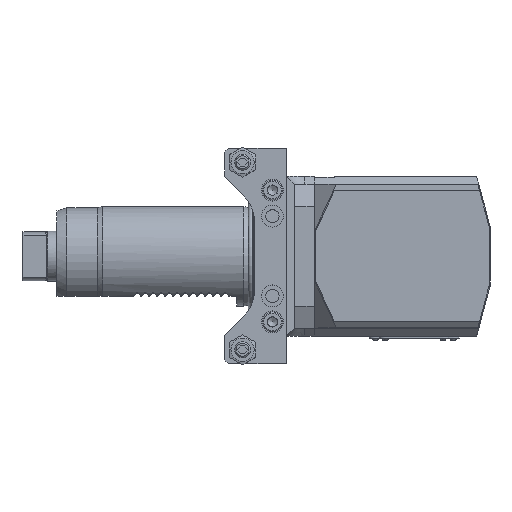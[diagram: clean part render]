
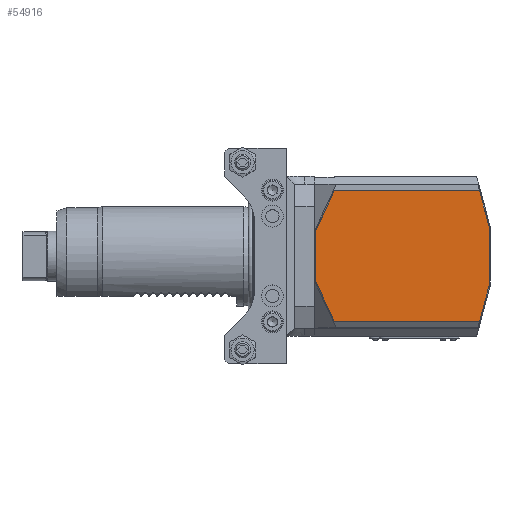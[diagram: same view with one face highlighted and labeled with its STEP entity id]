
A CAD part, top view. The second image highlights one B-rep face of the part: STEP entity #54916.
In plain terms, the highlighted planar face has unit normal (0, 0, 1) as drawn and (-1, 0, 0) by its records, which use the part's own axes.
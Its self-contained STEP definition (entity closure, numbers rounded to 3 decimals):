
#22824=VECTOR('',#39362,1.);
#22835=VECTOR('',#39377,1.);
#22840=VECTOR('',#39384,1.);
#22841=VECTOR('',#39385,1.);
#22842=VECTOR('',#39386,1.);
#22843=VECTOR('',#39387,1.);
#22844=VECTOR('',#39388,1.);
#22845=VECTOR('',#39389,1.);
#24063=LINE('',#49060,#22824);
#24074=LINE('',#49083,#22835);
#24079=LINE('',#49092,#22840);
#24080=LINE('',#49094,#22841);
#24081=LINE('',#49095,#22842);
#24082=LINE('',#49097,#22843);
#24083=LINE('',#49099,#22844);
#24084=LINE('',#49100,#22845);
#25317=PLANE('',#53697);
#28087=ORIENTED_EDGE('',*,*,#33252,.F.);
#28088=ORIENTED_EDGE('',*,*,#33268,.F.);
#28089=ORIENTED_EDGE('',*,*,#33269,.F.);
#28090=ORIENTED_EDGE('',*,*,#33270,.F.);
#28091=ORIENTED_EDGE('',*,*,#33263,.F.);
#28092=ORIENTED_EDGE('',*,*,#33271,.F.);
#28093=ORIENTED_EDGE('',*,*,#33272,.F.);
#28094=ORIENTED_EDGE('',*,*,#33273,.F.);
#31445=VERTEX_POINT('',#49057);
#31446=VERTEX_POINT('',#49059);
#31455=VERTEX_POINT('',#49081);
#31456=VERTEX_POINT('',#49082);
#31459=VERTEX_POINT('',#49091);
#31460=VERTEX_POINT('',#49093);
#31461=VERTEX_POINT('',#49096);
#31462=VERTEX_POINT('',#49098);
#33252=EDGE_CURVE('',#31445,#31446,#24063,.T.);
#33263=EDGE_CURVE('',#31455,#31456,#24074,.T.);
#33268=EDGE_CURVE('',#31459,#31445,#24079,.T.);
#33269=EDGE_CURVE('',#31460,#31459,#24080,.T.);
#33270=EDGE_CURVE('',#31456,#31460,#24081,.T.);
#33271=EDGE_CURVE('',#31461,#31455,#24082,.T.);
#33272=EDGE_CURVE('',#31462,#31461,#24083,.T.);
#33273=EDGE_CURVE('',#31446,#31462,#24084,.T.);
#34985=EDGE_LOOP('',(#28087,#28088,#28089,#28090,#28091,#28092,#28093,#28094));
#36211=FACE_BOUND('',#34985,.T.);
#39362=DIRECTION('',(0.,-72.709,0.));
#39377=DIRECTION('',(0.,72.709,0.));
#39382=DIRECTION('',(-1.,0.,0.));
#39383=DIRECTION('',(0.,1.,0.));
#39384=DIRECTION('',(0.,-9.524,20.425));
#39385=DIRECTION('',(0.,0.,24.599));
#39386=DIRECTION('',(0.,9.524,20.425));
#39387=DIRECTION('',(0.,4.767,-17.79));
#39388=DIRECTION('',(0.,0.,-29.868));
#39389=DIRECTION('',(0.,-4.767,-17.79));
#49057=CARTESIAN_POINT('',(46.381,126.198,32.724));
#49059=CARTESIAN_POINT('',(46.381,53.489,32.724));
#49060=CARTESIAN_POINT('',(46.381,126.198,32.724));
#49081=CARTESIAN_POINT('',(46.381,53.489,-32.724));
#49082=CARTESIAN_POINT('',(46.381,126.198,-32.724));
#49083=CARTESIAN_POINT('',(46.381,53.489,-32.724));
#49090=CARTESIAN_POINT('',(46.381,48.222,0.));
#49091=CARTESIAN_POINT('',(46.381,135.722,12.3));
#49092=CARTESIAN_POINT('',(46.381,135.722,12.3));
#49093=CARTESIAN_POINT('',(46.381,135.722,-12.3));
#49094=CARTESIAN_POINT('',(46.381,135.722,-12.3));
#49095=CARTESIAN_POINT('',(46.381,126.198,-32.724));
#49096=CARTESIAN_POINT('',(46.381,48.722,-14.934));
#49097=CARTESIAN_POINT('',(46.381,48.722,-14.934));
#49098=CARTESIAN_POINT('',(46.381,48.722,14.934));
#49099=CARTESIAN_POINT('',(46.381,48.722,14.934));
#49100=CARTESIAN_POINT('',(46.381,53.489,32.724));
#53697=AXIS2_PLACEMENT_3D('',#49090,#39382,#39383);
#54916=ADVANCED_FACE('',(#36211),#25317,.T.);
